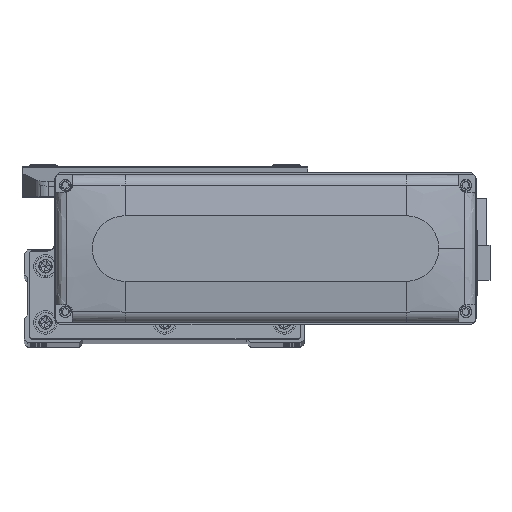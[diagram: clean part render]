
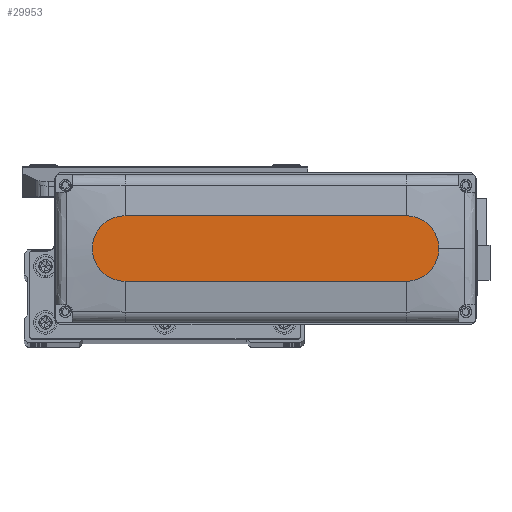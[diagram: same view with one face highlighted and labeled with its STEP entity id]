
A CAD part, top view. The second image highlights one B-rep face of the part: STEP entity #29953.
In plain terms, the highlighted planar face has unit normal (0, 0, 1).
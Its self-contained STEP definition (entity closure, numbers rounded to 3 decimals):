
#137 = CARTESIAN_POINT ( 'NONE',  ( -60., 14., 28.5 ) ) ;
#551 = AXIS2_PLACEMENT_3D ( 'NONE', #26720, #41762, #7999 ) ;
#1134 = VERTEX_POINT ( 'NONE', #5943 ) ;
#2302 = CIRCLE ( 'NONE', #29861, 14. ) ;
#3685 = DIRECTION ( 'NONE',  ( 0., 0., 1. ) ) ;
#5423 = CARTESIAN_POINT ( 'NONE',  ( -60., 14., 28.5 ) ) ;
#5656 = VERTEX_POINT ( 'NONE', #46169 ) ;
#5943 = CARTESIAN_POINT ( 'NONE',  ( 60., -14., 28.5 ) ) ;
#7399 = FACE_OUTER_BOUND ( 'NONE', #46147, .T. ) ;
#7999 = DIRECTION ( 'NONE',  ( 1., 0., 0. ) ) ;
#9255 = LINE ( 'NONE', #24275, #35378 ) ;
#9853 = CARTESIAN_POINT ( 'NONE',  ( -60., 0., 28.5 ) ) ;
#11665 = ORIENTED_EDGE ( 'NONE', *, *, #35967, .T. ) ;
#12357 = DIRECTION ( 'NONE',  ( 0., 0., 1. ) ) ;
#13388 = VECTOR ( 'NONE', #15204, 1000. ) ;
#14376 = ORIENTED_EDGE ( 'NONE', *, *, #36995, .T. ) ;
#15204 = DIRECTION ( 'NONE',  ( -1., 0., 0. ) ) ;
#16441 = AXIS2_PLACEMENT_3D ( 'NONE', #9853, #24880, #39904 ) ;
#18735 = DIRECTION ( 'NONE',  ( 1., 0., 0. ) ) ;
#20704 = ORIENTED_EDGE ( 'NONE', *, *, #38371, .T. ) ;
#20793 = EDGE_CURVE ( 'NONE', #1134, #38838, #21831, .T. ) ;
#21831 = CIRCLE ( 'NONE', #551, 14. ) ;
#22422 = PLANE ( 'NONE',  #43378 ) ;
#24275 = CARTESIAN_POINT ( 'NONE',  ( -60., -14., 28.5 ) ) ;
#24880 = DIRECTION ( 'NONE',  ( 0., 0., 1. ) ) ;
#26720 = CARTESIAN_POINT ( 'NONE',  ( 60., 0., 28.5 ) ) ;
#27368 = DIRECTION ( 'NONE',  ( 1., 0., 0. ) ) ;
#28074 = VERTEX_POINT ( 'NONE', #44473 ) ;
#29861 = AXIS2_PLACEMENT_3D ( 'NONE', #46124, #12357, #27368 ) ;
#29953 = ADVANCED_FACE ( 'NONE', ( #7399 ), #22422, .T. ) ;
#33917 = LINE ( 'NONE', #137, #13388 ) ;
#35233 = VERTEX_POINT ( 'NONE', #5423 ) ;
#35378 = VECTOR ( 'NONE', #39288, 1000. ) ;
#35407 = ORIENTED_EDGE ( 'NONE', *, *, #39228, .T. ) ;
#35967 = EDGE_CURVE ( 'NONE', #5656, #35233, #33917, .T. ) ;
#36133 = CARTESIAN_POINT ( 'NONE',  ( 74., 0., 28.5 ) ) ;
#36995 = EDGE_CURVE ( 'NONE', #38838, #5656, #2302, .T. ) ;
#37452 = CARTESIAN_POINT ( 'NONE',  ( 0., 0., 28.5 ) ) ;
#37676 = CIRCLE ( 'NONE', #16441, 14. ) ;
#38371 = EDGE_CURVE ( 'NONE', #35233, #28074, #37676, .T. ) ;
#38838 = VERTEX_POINT ( 'NONE', #36133 ) ;
#39228 = EDGE_CURVE ( 'NONE', #28074, #1134, #9255, .T. ) ;
#39288 = DIRECTION ( 'NONE',  ( 1., 0., 0. ) ) ;
#39904 = DIRECTION ( 'NONE',  ( 1., 0., 0. ) ) ;
#41258 = ORIENTED_EDGE ( 'NONE', *, *, #20793, .T. ) ;
#41762 = DIRECTION ( 'NONE',  ( 0., 0., 1. ) ) ;
#43378 = AXIS2_PLACEMENT_3D ( 'NONE', #37452, #3685, #18735 ) ;
#44473 = CARTESIAN_POINT ( 'NONE',  ( -60., -14., 28.5 ) ) ;
#46124 = CARTESIAN_POINT ( 'NONE',  ( 60., 0., 28.5 ) ) ;
#46147 = EDGE_LOOP ( 'NONE', ( #11665, #20704, #35407, #41258, #14376 ) ) ;
#46169 = CARTESIAN_POINT ( 'NONE',  ( 60., 14., 28.5 ) ) ;
